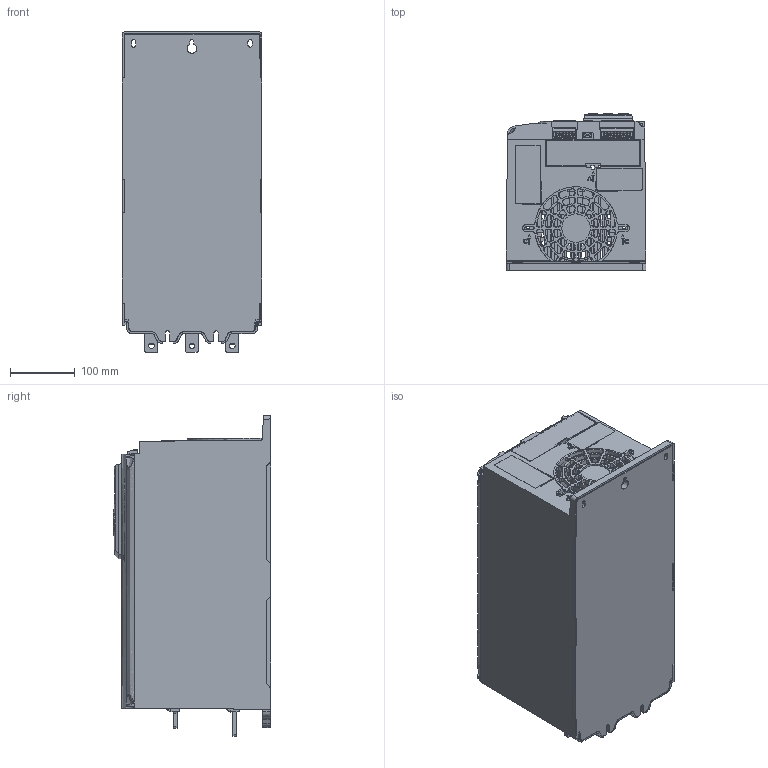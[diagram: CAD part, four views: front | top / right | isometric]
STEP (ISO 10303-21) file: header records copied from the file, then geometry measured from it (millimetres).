
FILE_DESCRIPTION (( 'STEP AP214' ), '1' );
FILE_NAME ('F2-B 3-Phase11.STEP', '2015-09-24T21:18:03', ( '' ), ( '' ), 'SwSTEP 2.0', 'SolidWorks 2014', '' );
FILE_SCHEMA (( 'AUTOMOTIVE_DESIGN' ));
Length unit declared in the file: millimetre
Products named in the file (22): 633-17037-00_1_1_1; 621-17625-00_1_1_1; 300-07410-00_1_1_1; le22_1_1_1; 300-07407-00_1_1_1; 300-07409-00_1_1_1; F2-B 3-Phase11; 999-17234-00_1_1_1; Electrical schematic label small - 635-04681-00_1_1_1; Name plate sticker small - 635-04681-00_1_1_1; 991-17216-00_1_1_1; cc1_1; 633-15475-00_1_1_1; 633-16068-00_1_1_1; fff; en2; 999-17223-00_1_1_1; 635-16299-00_1_1_1; 991-17405-00_CT Leads Removed (4S)_1_1_1; q_1; 621-17626-00_1_1_1
Assembly tree (25 placements, depth 4):
  F2-B 3-Phase11
    991-17405-00_CT Leads Removed (4S)_1_1_1
      le22_1_1_1
      621-17625-00_1_1_1  x3
        621-17625-00_1_1_1
      621-17626-00_1_1_1  x3
      q_1
    999-17223-00_1_1_1
      635-16299-00_1_1_1
    999-17234-00_1_1_1
      633-16068-00_1_1_1
        en2
        fff
      633-15475-00_1_1_1
      cc1_1
      Name plate sticker small - 635-04681-00_1_1_1
      Electrical schematic label small - 635-04681-00_1_1_1
    991-17216-00_1_1_1
      300-07409-00_1_1_1
      300-07407-00_1_1_1
      300-07410-00_1_1_1
      633-17037-00_1_1_1
Bounding box: 216.24 x 243.35 x 495.41 mm (x, y, z)
Volume: 2419497.9 mm3; surface area: 1158316.7 mm2
Topology: 19 solids, 24 shells, 4328 faces, 12147 edges, 7997 vertices
Faces by surface type: plane 2917, bspline 734, cylinder 386, cone 289, torus 2
Entity records: 233941 total; most frequent: CARTESIAN_POINT 84634, ORIENTED_EDGE 23852, DIRECTION 16499, EDGE_CURVE 11926, LINE 8221, VECTOR 8221, VERTEX_POINT 7853, EDGE_LOOP 4791
